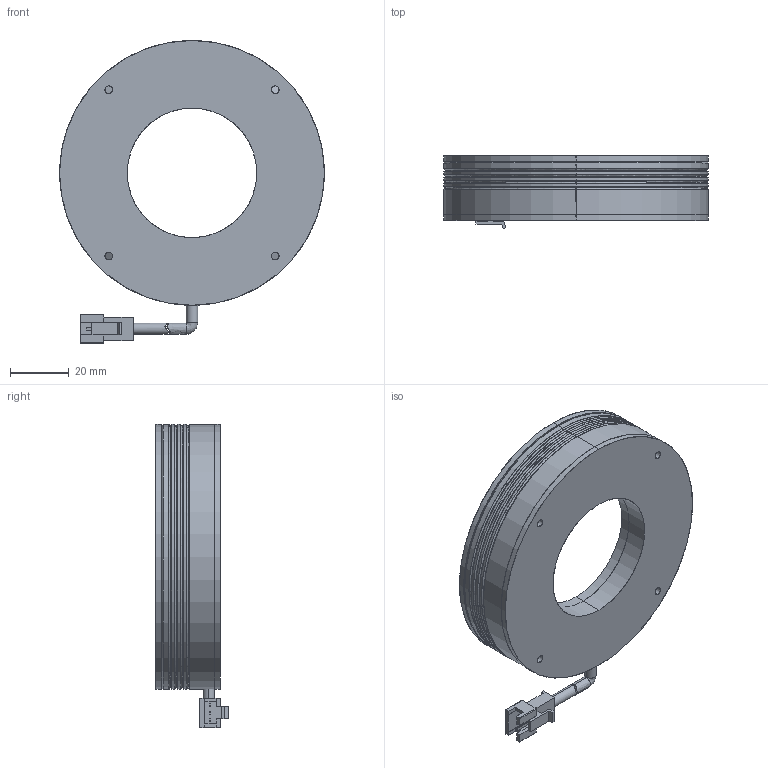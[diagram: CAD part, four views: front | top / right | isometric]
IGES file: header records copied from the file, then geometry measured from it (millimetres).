
Start section: SolidWorks IGES file using analytic representation for surfaces
Global section: file name: E:\SynologyDrive\新款图纸\标准产品\环光\环光30\R9030-44\ED\R9030-44.IGS; native system: SolidWorks 2020; preprocessor: SolidWorks 2020; author: Administrator; date: 200827.094553; units: millimetre
Bounding box: 90 x 24.65 x 103 mm (x, y, z)
Surface area: 47906 mm2 (no closed solid volume)
Topology: 0 solids, 0 shells, 346 faces, 4972 edges, 4940 vertices
Faces by surface type: bspline 186, revolution 160
